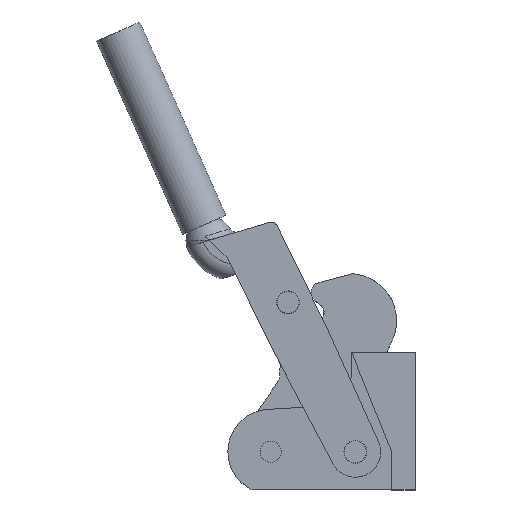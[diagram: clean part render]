
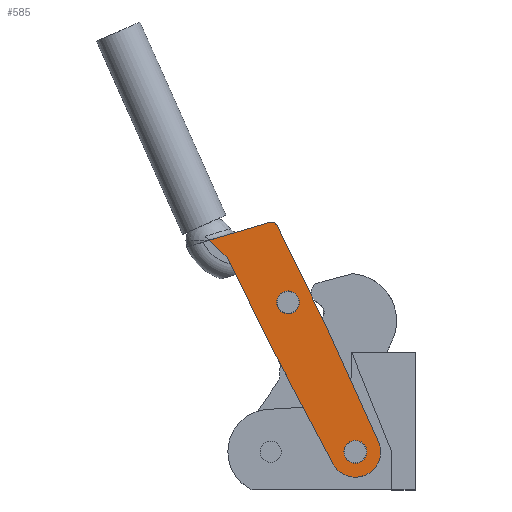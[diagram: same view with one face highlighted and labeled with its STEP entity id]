
A CAD part, top view. The second image highlights one B-rep face of the part: STEP entity #585.
In plain terms, the highlighted planar face has unit normal (0, 0, 1).
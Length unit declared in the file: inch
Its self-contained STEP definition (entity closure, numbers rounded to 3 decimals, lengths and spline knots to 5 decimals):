
#585 = ADVANCED_FACE( '', ( #854, #855, #856 ), #857, .T. );
#854 = FACE_OUTER_BOUND( '', #1232, .T. );
#855 = FACE_BOUND( '', #1233, .T. );
#856 = FACE_BOUND( '', #1234, .T. );
#857 = PLANE( '', #1235 );
#1232 = EDGE_LOOP( '', ( #2318, #2319, #2320, #2321, #2322, #2323, #2324, #2325, #2326 ) );
#1233 = EDGE_LOOP( '', ( #2327, #2328 ) );
#1234 = EDGE_LOOP( '', ( #2329, #2330 ) );
#1235 = AXIS2_PLACEMENT_3D( '', #2331, #2332, #2333 );
#2318 = ORIENTED_EDGE( '', *, *, #3283, .T. );
#2319 = ORIENTED_EDGE( '', *, *, #3252, .T. );
#2320 = ORIENTED_EDGE( '', *, *, #3284, .T. );
#2321 = ORIENTED_EDGE( '', *, *, #3285, .T. );
#2322 = ORIENTED_EDGE( '', *, *, #3286, .T. );
#2323 = ORIENTED_EDGE( '', *, *, #3287, .T. );
#2324 = ORIENTED_EDGE( '', *, *, #3288, .T. );
#2325 = ORIENTED_EDGE( '', *, *, #3289, .T. );
#2326 = ORIENTED_EDGE( '', *, *, #3290, .T. );
#2327 = ORIENTED_EDGE( '', *, *, #3266, .F. );
#2328 = ORIENTED_EDGE( '', *, *, #3280, .F. );
#2329 = ORIENTED_EDGE( '', *, *, #3242, .F. );
#2330 = ORIENTED_EDGE( '', *, *, #3291, .F. );
#2331 = CARTESIAN_POINT( '', ( -1.41929, 0.9, 0.84 ) );
#2332 = DIRECTION( '', ( 0., 0., 1. ) );
#2333 = DIRECTION( '', ( 1., 0., 0. ) );
#3242 = EDGE_CURVE( '', #3836, #3839, #3840, .T. );
#3252 = EDGE_CURVE( '', #3853, #3857, #3859, .T. );
#3266 = EDGE_CURVE( '', #3883, #3886, #3887, .T. );
#3280 = EDGE_CURVE( '', #3886, #3883, #3909, .T. );
#3283 = EDGE_CURVE( '', #3912, #3853, #3913, .T. );
#3284 = EDGE_CURVE( '', #3857, #3914, #3915, .T. );
#3285 = EDGE_CURVE( '', #3914, #3916, #3917, .T. );
#3286 = EDGE_CURVE( '', #3916, #3918, #3919, .T. );
#3287 = EDGE_CURVE( '', #3918, #3920, #3921, .T. );
#3288 = EDGE_CURVE( '', #3920, #3922, #3923, .T. );
#3289 = EDGE_CURVE( '', #3922, #3924, #3925, .T. );
#3290 = EDGE_CURVE( '', #3924, #3912, #3926, .T. );
#3291 = EDGE_CURVE( '', #3839, #3836, #3927, .T. );
#3836 = VERTEX_POINT( '', #4746 );
#3839 = VERTEX_POINT( '', #4750 );
#3840 = CIRCLE( '', #4751, 0.27 );
#3853 = VERTEX_POINT( '', #4767 );
#3857 = VERTEX_POINT( '', #4772 );
#3859 = CIRCLE( '', #4775, 0.6 );
#3883 = VERTEX_POINT( '', #4806 );
#3886 = VERTEX_POINT( '', #4810 );
#3887 = CIRCLE( '', #4811, 0.27 );
#3909 = CIRCLE( '', #4840, 0.27 );
#3912 = VERTEX_POINT( '', #4843 );
#3913 = CIRCLE( '', #4844, 0.6 );
#3914 = VERTEX_POINT( '', #4845 );
#3915 = LINE( '', #4846, #4847 );
#3916 = VERTEX_POINT( '', #4848 );
#3917 = LINE( '', #4849, #4850 );
#3918 = VERTEX_POINT( '', #4851 );
#3919 = CIRCLE( '', #4852, 0.15 );
#3920 = VERTEX_POINT( '', #4853 );
#3921 = LINE( '', #4854, #4855 );
#3922 = VERTEX_POINT( '', #4856 );
#3923 = LINE( '', #4857, #4858 );
#3924 = VERTEX_POINT( '', #4859 );
#3925 = LINE( '', #4860, #4861 );
#3926 = LINE( '', #4862, #4863 );
#3927 = CIRCLE( '', #4864, 0.27 );
#4746 = CARTESIAN_POINT( '', ( -2.73898, 4.43391, 0.84 ) );
#4750 = CARTESIAN_POINT( '', ( -3.27898, 4.43391, 0.84 ) );
#4751 = AXIS2_PLACEMENT_3D( '', #5888, #5889, #5890 );
#4767 = CARTESIAN_POINT( '', ( -0.81929, 0.9, 0.84 ) );
#4772 = CARTESIAN_POINT( '', ( -0.87267, 1.14739, 0.84 ) );
#4775 = AXIS2_PLACEMENT_3D( '', #5908, #5909, #5910 );
#4806 = CARTESIAN_POINT( '', ( -1.14929, 0.9, 0.84 ) );
#4810 = CARTESIAN_POINT( '', ( -1.68929, 0.9, 0.84 ) );
#4811 = AXIS2_PLACEMENT_3D( '', #5941, #5942, #5943 );
#4840 = AXIS2_PLACEMENT_3D( '', #5969, #5970, #5971 );
#4843 = CARTESIAN_POINT( '', ( -1.94999, 0.62007, 0.84 ) );
#4844 = AXIS2_PLACEMENT_3D( '', #5978, #5979, #5980 );
#4845 = CARTESIAN_POINT( '', ( -2.10547, 3.87141, 0.84 ) );
#4846 = CARTESIAN_POINT( '', ( -0.87267, 1.14739, 0.84 ) );
#4847 = VECTOR( '', #5981, 1. );
#4848 = CARTESIAN_POINT( '', ( -3.26921, 6.24898, 0.84 ) );
#4849 = CARTESIAN_POINT( '', ( -2.10547, 3.87141, 0.84 ) );
#4850 = VECTOR( '', #5982, 1. );
#4851 = CARTESIAN_POINT( '', ( -3.44681, 6.32678, 0.84 ) );
#4852 = AXIS2_PLACEMENT_3D( '', #5983, #5984, #5985 );
#4853 = CARTESIAN_POINT( '', ( -4.86978, 5.90232, 0.84 ) );
#4854 = CARTESIAN_POINT( '', ( -3.44681, 6.32678, 0.84 ) );
#4855 = VECTOR( '', #5986, 1. );
#4856 = CARTESIAN_POINT( '', ( -4.44998, 5.49958, 0.84 ) );
#4857 = CARTESIAN_POINT( '', ( -4.86978, 5.90232, 0.84 ) );
#4858 = VECTOR( '', #5987, 1. );
#4859 = CARTESIAN_POINT( '', ( -3.34496, 3.26472, 0.84 ) );
#4860 = CARTESIAN_POINT( '', ( -4.44998, 5.49958, 0.84 ) );
#4861 = VECTOR( '', #5988, 1. );
#4862 = CARTESIAN_POINT( '', ( -3.34496, 3.26472, 0.84 ) );
#4863 = VECTOR( '', #5989, 1. );
#4864 = AXIS2_PLACEMENT_3D( '', #5990, #5991, #5992 );
#5888 = CARTESIAN_POINT( '', ( -3.00898, 4.43391, 0.84 ) );
#5889 = DIRECTION( '', ( 0., 0., 1. ) );
#5890 = DIRECTION( '', ( 1., 0., 0. ) );
#5908 = CARTESIAN_POINT( '', ( -1.41929, 0.9, 0.84 ) );
#5909 = DIRECTION( '', ( 0., 0., 1. ) );
#5910 = DIRECTION( '', ( -0.884, -0.467, 0. ) );
#5941 = CARTESIAN_POINT( '', ( -1.41929, 0.9, 0.84 ) );
#5942 = DIRECTION( '', ( 0., 0., 1. ) );
#5943 = DIRECTION( '', ( 1., 0., 0. ) );
#5969 = CARTESIAN_POINT( '', ( -1.41929, 0.9, 0.84 ) );
#5970 = DIRECTION( '', ( 0., 0., 1. ) );
#5971 = DIRECTION( '', ( 1., 0., 0. ) );
#5978 = CARTESIAN_POINT( '', ( -1.41929, 0.9, 0.84 ) );
#5979 = DIRECTION( '', ( 0., 0., 1. ) );
#5980 = DIRECTION( '', ( -0.884, -0.467, 0. ) );
#5981 = DIRECTION( '', ( -0.412, 0.911, 0. ) );
#5982 = DIRECTION( '', ( -0.44, 0.898, 0. ) );
#5983 = CARTESIAN_POINT( '', ( -3.40394, 6.18304, 0.84 ) );
#5984 = DIRECTION( '', ( 0., 0., 1. ) );
#5985 = DIRECTION( '', ( 0.898, 0.44, 0. ) );
#5986 = DIRECTION( '', ( -0.958, -0.286, 0. ) );
#5987 = DIRECTION( '', ( 0.722, -0.692, 0. ) );
#5988 = DIRECTION( '', ( 0.443, -0.896, 0. ) );
#5989 = DIRECTION( '', ( 0.467, -0.884, 0. ) );
#5990 = CARTESIAN_POINT( '', ( -3.00898, 4.43391, 0.84 ) );
#5991 = DIRECTION( '', ( 0., 0., 1. ) );
#5992 = DIRECTION( '', ( 1., 0., 0. ) );
